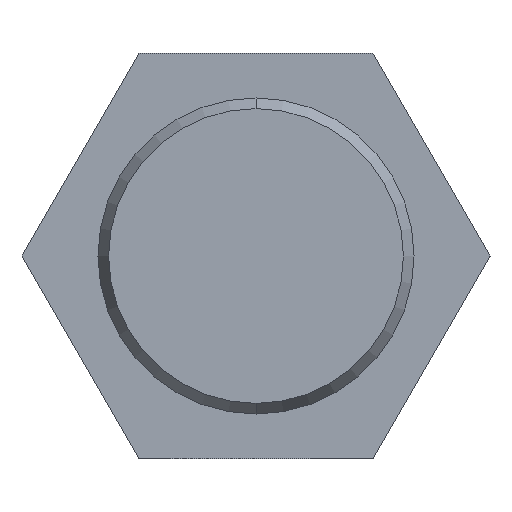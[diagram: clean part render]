
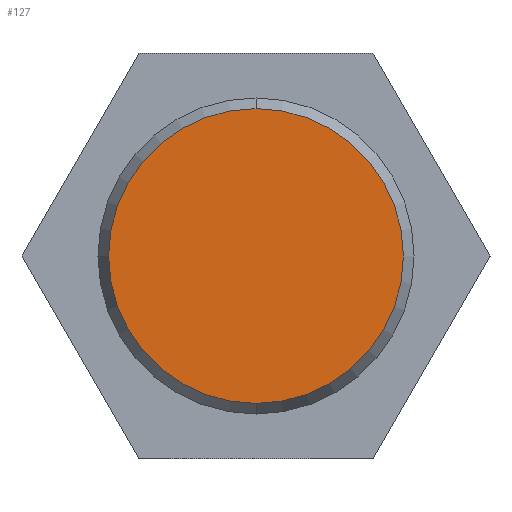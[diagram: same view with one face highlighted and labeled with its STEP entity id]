
A CAD part, left-side view. The second image highlights one B-rep face of the part: STEP entity #127.
In plain terms, the highlighted planar face has unit normal (-1, 0, 0).
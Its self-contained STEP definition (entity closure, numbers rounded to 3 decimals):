
#53 = AXIS2_PLACEMENT_3D ( 'NONE', #698, #664, #705 ) ;
#103 = CARTESIAN_POINT ( 'NONE',  ( 0., 0., -8. ) ) ;
#127 = ADVANCED_FACE ( 'NONE', ( #304 ), #462, .T. ) ;
#130 = EDGE_CURVE ( 'NONE', #171, #340, #288, .T. ) ;
#141 = EDGE_LOOP ( 'NONE', ( #453, #369 ) ) ;
#148 = CARTESIAN_POINT ( 'NONE',  ( 0., 0., 8. ) ) ;
#171 = VERTEX_POINT ( 'NONE', #103 ) ;
#178 = CIRCLE ( 'NONE', #53, 8. ) ;
#288 = CIRCLE ( 'NONE', #326, 8. ) ;
#297 = EDGE_CURVE ( 'NONE', #340, #171, #178, .T. ) ;
#304 = FACE_OUTER_BOUND ( 'NONE', #141, .T. ) ;
#326 = AXIS2_PLACEMENT_3D ( 'NONE', #382, #376, #368 ) ;
#340 = VERTEX_POINT ( 'NONE', #148 ) ;
#363 = AXIS2_PLACEMENT_3D ( 'NONE', #475, #508, #459 ) ;
#368 = DIRECTION ( 'NONE',  ( 0., 0., -1. ) ) ;
#369 = ORIENTED_EDGE ( 'NONE', *, *, #297, .F. ) ;
#376 = DIRECTION ( 'NONE',  ( 1., 0., 0. ) ) ;
#382 = CARTESIAN_POINT ( 'NONE',  ( 0., 0., 0. ) ) ;
#453 = ORIENTED_EDGE ( 'NONE', *, *, #130, .F. ) ;
#459 = DIRECTION ( 'NONE',  ( 0., 0., 1. ) ) ;
#462 = PLANE ( 'NONE',  #363 ) ;
#475 = CARTESIAN_POINT ( 'NONE',  ( 0., 0., 0. ) ) ;
#508 = DIRECTION ( 'NONE',  ( -1., 0., 0. ) ) ;
#664 = DIRECTION ( 'NONE',  ( 1., 0., 0. ) ) ;
#698 = CARTESIAN_POINT ( 'NONE',  ( 0., 0., 0. ) ) ;
#705 = DIRECTION ( 'NONE',  ( 0., 0., -1. ) ) ;
